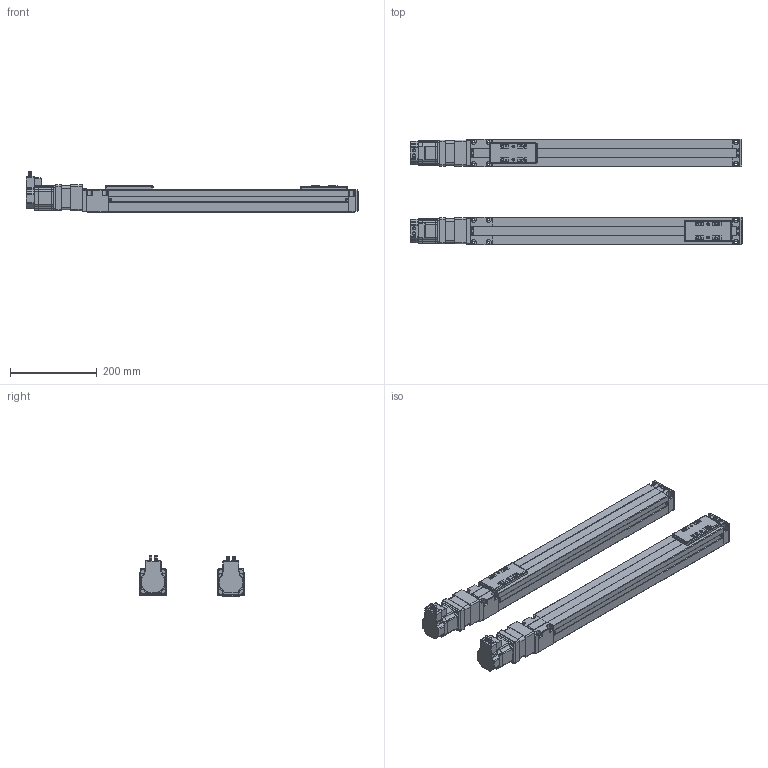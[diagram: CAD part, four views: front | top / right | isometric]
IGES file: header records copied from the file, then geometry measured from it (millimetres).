
Start section: IMSI TurboCAD v14.0
Global section: author: NULL; organization: NULL; date: 20100725.171207; units: millimetre
Bounding box: 767 x 244 x 93 mm (x, y, z)
Surface area: 839180.5 mm2 (no closed solid volume)
Topology: 0 solids, 0 shells, 3168 faces, 17782 edges, 17770 vertices
Faces by surface type: extrusion 2694, revolution 408, bspline 66
